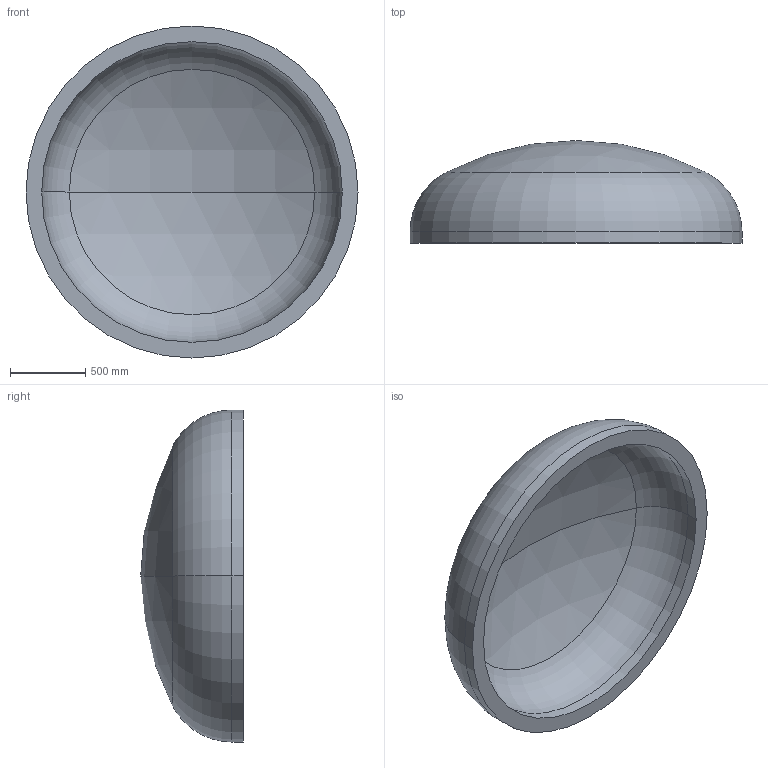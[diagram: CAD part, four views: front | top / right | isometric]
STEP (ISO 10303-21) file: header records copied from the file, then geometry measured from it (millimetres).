
FILE_DESCRIPTION (( 'STEP AP203' ), '1' );
FILE_NAME ('DIN 28013 Korbbogenform_-_Boden DIN 28013 - 2200 x 75 - I - s=104.step', '2016-07-01T14:55:29', ( '' ), ( '' ), 'SwSTEP 2.0', 'SolidWorks 2013', '' );
FILE_SCHEMA (( 'CONFIG_CONTROL_DESIGN' ));
Length unit declared in the file: millimetre
Products named in the file (1): DIN 28013 Korbbogenform_-_Boden DIN 28013 - 2200 x 75 - I - s=104
Bounding box: 2200 x 679.61 x 2200 mm (x, y, z)
Volume: 566929982.2 mm3; surface area: 11609966.4 mm2
Topology: 1 solids, 1 shells, 13 faces, 24 edges, 14 vertices
Faces by surface type: torus 4, cylinder 4, sphere 4, plane 1
Entity records: 407 total; most frequent: DIRECTION 72, CARTESIAN_POINT 52, ORIENTED_EDGE 48, AXIS2_PLACEMENT_3D 34, EDGE_CURVE 24, CIRCLE 20, EDGE_LOOP 14, VERTEX_POINT 14
